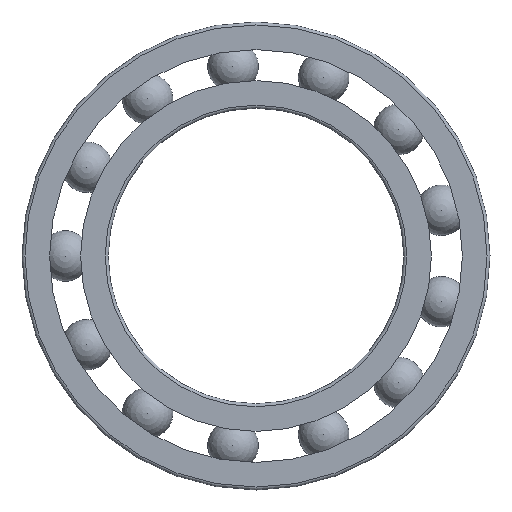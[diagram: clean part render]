
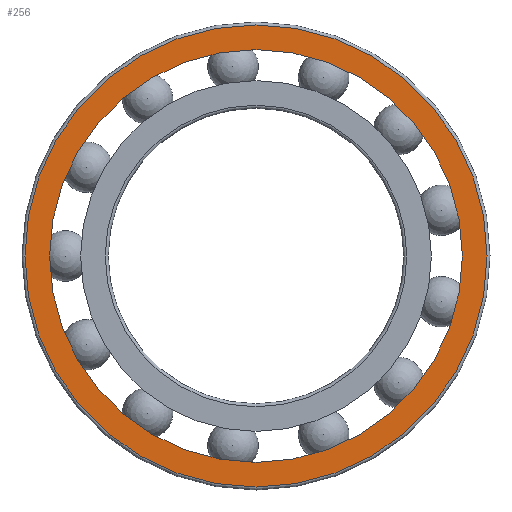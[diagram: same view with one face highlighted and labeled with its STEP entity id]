
A CAD part, left-side view. The second image highlights one B-rep face of the part: STEP entity #256.
In plain terms, the highlighted planar face has unit normal (-1, 0, 0).
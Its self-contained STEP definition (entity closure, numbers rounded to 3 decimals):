
#114=ORIENTED_EDGE('',*,*,#138,.T.);
#115=ORIENTED_EDGE('',*,*,#139,.F.);
#138=EDGE_CURVE('',#154,#154,#171,.T.);
#139=EDGE_CURVE('',#155,#155,#172,.T.);
#154=VERTEX_POINT('',#476);
#155=VERTEX_POINT('',#478);
#171=CIRCLE('',#320,41.9);
#172=CIRCLE('',#321,46.9);
#195=EDGE_LOOP('',(#114));
#196=EDGE_LOOP('',(#115));
#227=FACE_BOUND('',#195,.T.);
#228=FACE_BOUND('',#196,.T.);
#246=PLANE('',#319);
#256=ADVANCED_FACE('',(#227,#228),#246,.T.);
#319=AXIS2_PLACEMENT_3D('',#474,#386,#387);
#320=AXIS2_PLACEMENT_3D('',#475,#388,#389);
#321=AXIS2_PLACEMENT_3D('',#477,#390,#391);
#386=DIRECTION('',(-1.,0.,0.));
#387=DIRECTION('',(0.,0.,1.));
#388=DIRECTION('',(1.,0.,0.));
#389=DIRECTION('',(0.,0.,-1.));
#390=DIRECTION('',(1.,0.,0.));
#391=DIRECTION('',(0.,0.,-1.));
#474=CARTESIAN_POINT('',(0.,46.9,0.));
#475=CARTESIAN_POINT('',(0.,0.,0.));
#476=CARTESIAN_POINT('',(0.,0.,-41.9));
#477=CARTESIAN_POINT('',(0.,0.,0.));
#478=CARTESIAN_POINT('',(0.,0.,-46.9));
